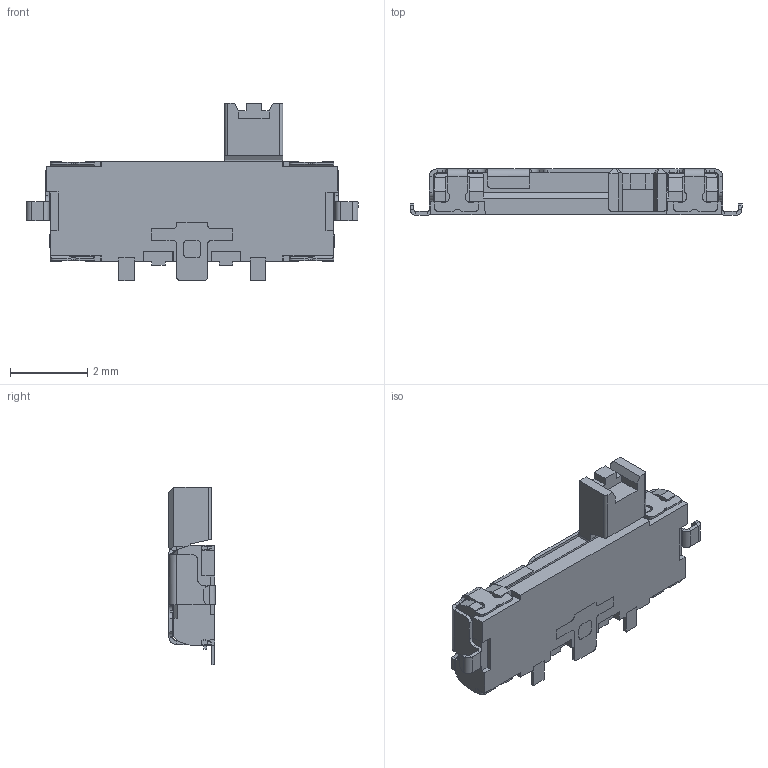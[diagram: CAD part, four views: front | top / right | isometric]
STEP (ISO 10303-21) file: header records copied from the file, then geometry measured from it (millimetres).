
FILE_DESCRIPTION (( 'STEP AP214' ), '1' );
FILE_NAME ('SSAL120100.STEP', '2011-03-29T10:38:19', ( '' ), ( '' ), 'SwSTEP 2.0', 'SolidWorks 2007', '' );
FILE_SCHEMA (( 'AUTOMOTIVE_DESIGN' ));
Length unit declared in the file: millimetre
Products named in the file (1): SSAL120100
Bounding box: 8.6 x 1.2 x 4.6 mm (x, y, z)
Volume: 23.5 mm3; surface area: 96.3 mm2
Topology: 1 solids, 1 shells, 377 faces, 1051 edges, 665 vertices
Faces by surface type: plane 271, cylinder 92, bspline 14
Entity records: 16515 total; most frequent: CARTESIAN_POINT 3210, ORIENTED_EDGE 2102, DIRECTION 1555, EDGE_CURVE 1051, LINE 823, VECTOR 823, VERTEX_POINT 665, EDGE_LOOP 382
